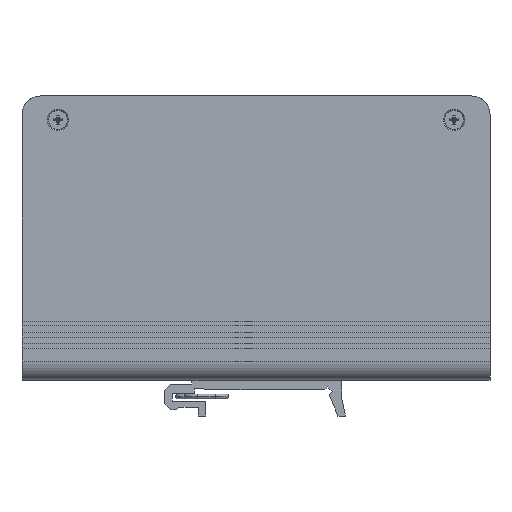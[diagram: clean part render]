
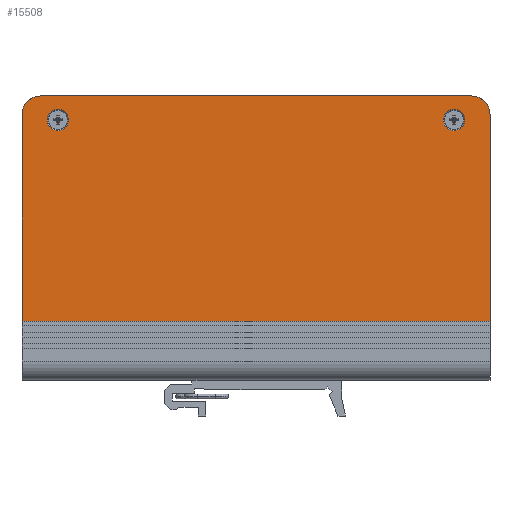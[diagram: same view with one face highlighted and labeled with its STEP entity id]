
A CAD part, front view. The second image highlights one B-rep face of the part: STEP entity #15508.
In plain terms, the highlighted planar face has unit normal (0, -1, 0).
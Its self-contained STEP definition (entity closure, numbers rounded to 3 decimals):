
#1740=DIRECTION('',(0.,0.,1.));
#1741=VECTOR('',#1740,55.2);
#1742=CARTESIAN_POINT('',(62.5,-19.7,-22.2));
#1743=LINE('',#1742,#1741);
#1760=DIRECTION('',(0.,0.,1.));
#1761=VECTOR('',#1760,55.2);
#1762=CARTESIAN_POINT('',(-62.5,-19.7,-22.2));
#1763=LINE('',#1762,#1761);
#1847=DIRECTION('',(-1.,0.,0.));
#1848=VECTOR('',#1847,115.);
#1849=CARTESIAN_POINT('',(57.5,-19.7,38.));
#1850=LINE('',#1849,#1848);
#1860=CARTESIAN_POINT('',(-57.5,-19.7,33.));
#1861=DIRECTION('',(0.,-1.,0.));
#1862=DIRECTION('',(0.,0.,1.));
#1863=AXIS2_PLACEMENT_3D('',#1860,#1861,#1862);
#1865=CARTESIAN_POINT('',(57.5,-19.7,33.));
#1866=DIRECTION('',(0.,-1.,0.));
#1867=DIRECTION('',(1.,0.,0.));
#1868=AXIS2_PLACEMENT_3D('',#1865,#1866,#1867);
#1870=DIRECTION('',(-1.,0.,0.));
#1871=VECTOR('',#1870,125.);
#1872=CARTESIAN_POINT('',(62.5,-19.7,-22.2));
#1873=LINE('',#1872,#1871);
#1874=CARTESIAN_POINT('',(-52.9,-19.7,31.6));
#1875=DIRECTION('',(0.,1.,0.));
#1876=DIRECTION('',(1.,0.,0.));
#1877=AXIS2_PLACEMENT_3D('',#1874,#1875,#1876);
#1879=CARTESIAN_POINT('',(-52.9,-19.7,31.6));
#1880=DIRECTION('',(0.,1.,0.));
#1881=DIRECTION('',(-1.,0.,0.));
#1882=AXIS2_PLACEMENT_3D('',#1879,#1880,#1881);
#1884=CARTESIAN_POINT('',(52.9,-19.7,31.6));
#1885=DIRECTION('',(0.,1.,0.));
#1886=DIRECTION('',(1.,0.,0.));
#1887=AXIS2_PLACEMENT_3D('',#1884,#1885,#1886);
#1889=CARTESIAN_POINT('',(52.9,-19.7,31.6));
#1890=DIRECTION('',(0.,1.,0.));
#1891=DIRECTION('',(-1.,0.,0.));
#1892=AXIS2_PLACEMENT_3D('',#1889,#1890,#1891);
#11202=CARTESIAN_POINT('',(62.5,-19.7,-22.2));
#11203=VERTEX_POINT('',#11202);
#11230=CARTESIAN_POINT('',(-62.5,-19.7,-22.2));
#11231=VERTEX_POINT('',#11230);
#11232=CARTESIAN_POINT('',(-57.5,-19.7,38.));
#11233=CARTESIAN_POINT('',(-62.5,-19.7,33.));
#11234=VERTEX_POINT('',#11232);
#11235=VERTEX_POINT('',#11233);
#11236=CARTESIAN_POINT('',(62.5,-19.7,33.));
#11237=CARTESIAN_POINT('',(57.5,-19.7,38.));
#11238=VERTEX_POINT('',#11236);
#11239=VERTEX_POINT('',#11237);
#11288=CARTESIAN_POINT('',(-50.05,-19.7,31.6));
#11289=CARTESIAN_POINT('',(-55.75,-19.7,31.6));
#11290=VERTEX_POINT('',#11288);
#11291=VERTEX_POINT('',#11289);
#11292=CARTESIAN_POINT('',(55.75,-19.7,31.6));
#11293=CARTESIAN_POINT('',(50.05,-19.7,31.6));
#11294=VERTEX_POINT('',#11292);
#11295=VERTEX_POINT('',#11293);
#15482=CARTESIAN_POINT('',(62.5,-19.7,-22.2));
#15483=DIRECTION('',(0.,-1.,0.));
#15484=DIRECTION('',(0.,0.,1.));
#15485=AXIS2_PLACEMENT_3D('',#15482,#15483,#15484);
#15486=PLANE('',#15485);
#15487=ORIENTED_EDGE('',*,*,#15428,.F.);
#15488=ORIENTED_EDGE('',*,*,#15449,.F.);
#15489=ORIENTED_EDGE('',*,*,#15469,.F.);
#15490=ORIENTED_EDGE('',*,*,#15334,.F.);
#15492=ORIENTED_EDGE('',*,*,#15491,.T.);
#15493=ORIENTED_EDGE('',*,*,#15377,.T.);
#15494=EDGE_LOOP('',(#15487,#15488,#15489,#15490,#15492,#15493));
#15495=FACE_OUTER_BOUND('',#15494,.F.);
#15497=ORIENTED_EDGE('',*,*,#15496,.F.);
#15499=ORIENTED_EDGE('',*,*,#15498,.F.);
#15500=EDGE_LOOP('',(#15497,#15499));
#15501=FACE_BOUND('',#15500,.F.);
#15503=ORIENTED_EDGE('',*,*,#15502,.F.);
#15505=ORIENTED_EDGE('',*,*,#15504,.F.);
#15506=EDGE_LOOP('',(#15503,#15505));
#15507=FACE_BOUND('',#15506,.F.);
#15508=ADVANCED_FACE('',(#15495,#15501,#15507),#15486,.T.);
#1864=CIRCLE('',#1863,5.);
#1869=CIRCLE('',#1868,5.);
#1878=CIRCLE('',#1877,2.85);
#1883=CIRCLE('',#1882,2.85);
#1888=CIRCLE('',#1887,2.85);
#1893=CIRCLE('',#1892,2.85);
#15334=EDGE_CURVE('',#11203,#11238,#1743,.T.);
#15377=EDGE_CURVE('',#11231,#11235,#1763,.T.);
#15428=EDGE_CURVE('',#11234,#11235,#1864,.T.);
#15449=EDGE_CURVE('',#11239,#11234,#1850,.T.);
#15469=EDGE_CURVE('',#11238,#11239,#1869,.T.);
#15491=EDGE_CURVE('',#11203,#11231,#1873,.T.);
#15496=EDGE_CURVE('',#11290,#11291,#1878,.T.);
#15498=EDGE_CURVE('',#11291,#11290,#1883,.T.);
#15502=EDGE_CURVE('',#11294,#11295,#1888,.T.);
#15504=EDGE_CURVE('',#11295,#11294,#1893,.T.);
